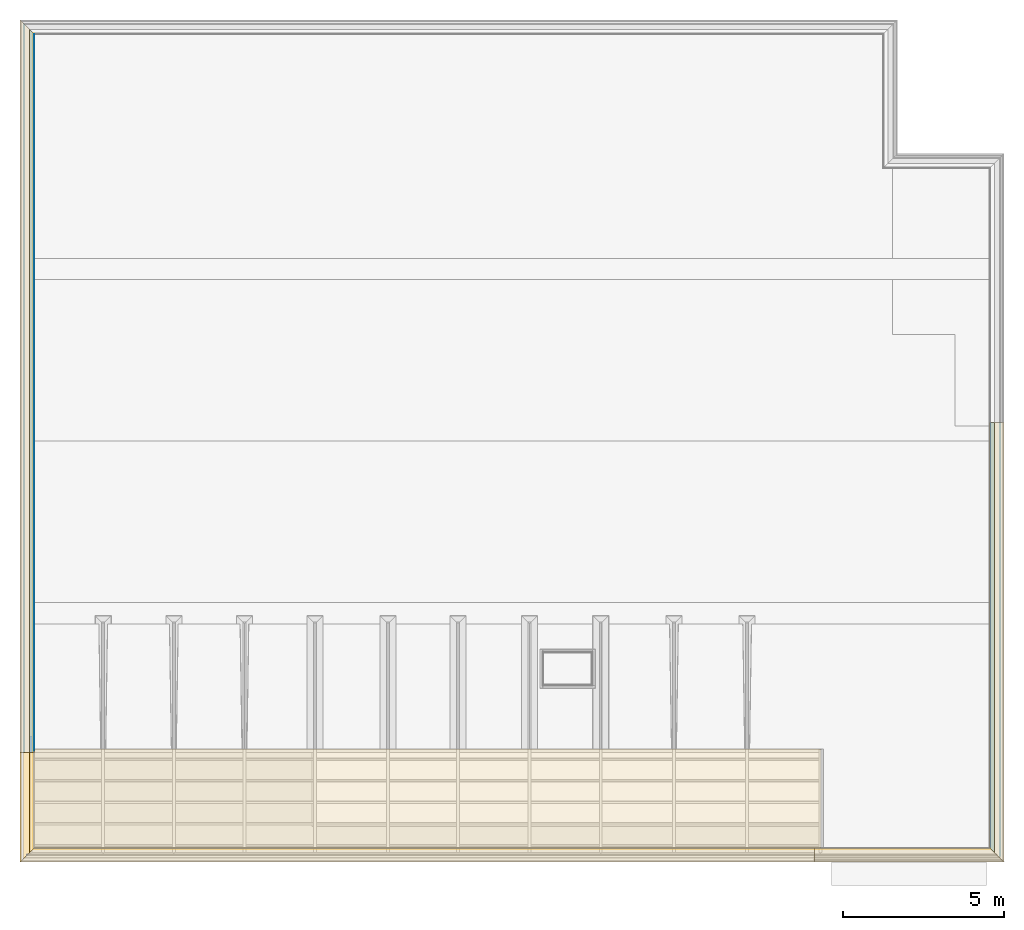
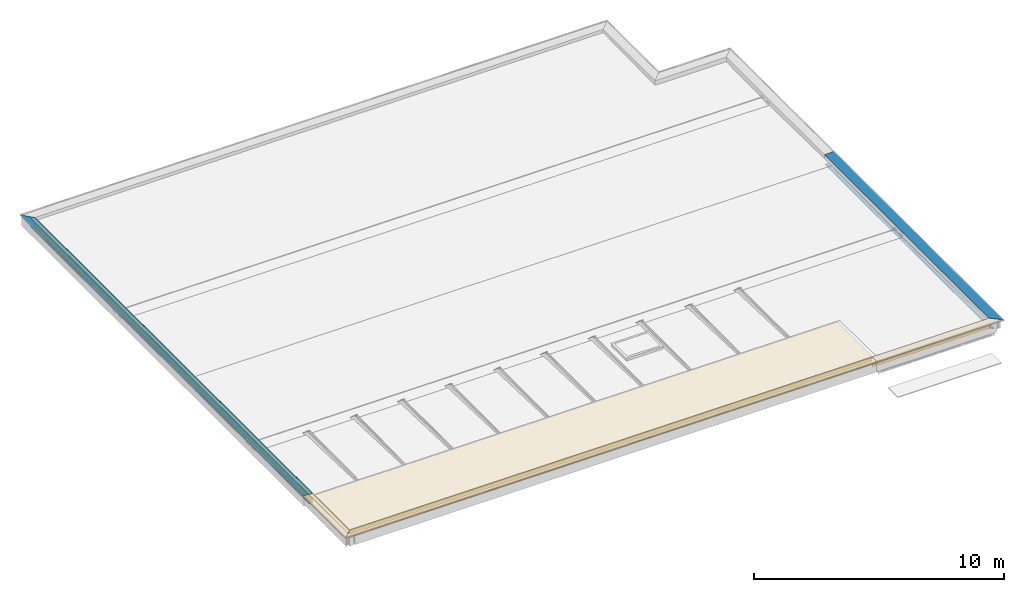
# One storey, part 14 of 16: 13 coverings, 5 building element parts, 6 openings, 6 elements without a shape of their own.
"""IFC2X3 building model written with IfcOpenShell, lengths in millimetres."""

from ifc_helpers import new_model, entity, si_unit, converted_unit, derived_unit, money_unit, direction, frame, origin_with_axes, place, context, subcontext, project, spatial, faceted_brep, material, type_object, element, aggregate, save


model = new_model("IFC2X3")

# Units and contexts
model_context = context("Model", 3, precision=0.01, world=origin_with_axes(), true_north=direction((0.0, 1.0)))
body_context = subcontext(model_context, "Body", "Model", "MODEL_VIEW")
ifc_project = project(units=[si_unit("LENGTHUNIT", "METRE", prefix="MILLI"), si_unit("AREAUNIT", "SQUARE_METRE"), si_unit("VOLUMEUNIT", "CUBIC_METRE"), converted_unit("PLANEANGLEUNIT", "DEGREE", entity("IfcPlaneAngleMeasure", 0.0174532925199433), si_unit("PLANEANGLEUNIT", "RADIAN"), dimensions=[0, 0, 0, 0, 0, 0, 0]), money_unit("EUR"), converted_unit("TIMEUNIT", "Year", entity("IfcTimeMeasure", 31556926.0), si_unit("TIMEUNIT", "SECOND"), dimensions=[0, 0, 1, 0, 0, 0, 0]), si_unit("MASSUNIT", "GRAM", prefix="KILO"), si_unit("THERMODYNAMICTEMPERATUREUNIT", "DEGREE_CELSIUS"), si_unit("LUMINOUSINTENSITYUNIT", "LUMEN"), si_unit("ENERGYUNIT", "JOULE", prefix="MEGA"), derived_unit("THERMALCONDUCTANCEUNIT", [(si_unit("POWERUNIT", "WATT"), 1), (si_unit("LENGTHUNIT", "METRE"), -1), (si_unit("THERMODYNAMICTEMPERATUREUNIT", "KELVIN"), -1)]), derived_unit("SPECIFICHEATCAPACITYUNIT", [(si_unit("ENERGYUNIT", "JOULE"), 1), (si_unit("MASSUNIT", "GRAM", prefix="KILO"), -1), (si_unit("THERMODYNAMICTEMPERATUREUNIT", "KELVIN"), -1)]), derived_unit("MASSDENSITYUNIT", [(si_unit("MASSUNIT", "GRAM", prefix="KILO"), 1), (si_unit("VOLUMEUNIT", "CUBIC_METRE"), -1)])], contexts=[model_context])

# Site, building, storey
site_placement = place(None, origin_with_axes())
site = spatial("IfcSite", under=ifc_project, at=site_placement, Name="Site", CompositionType="ELEMENT")
building_placement = place(site_placement, origin_with_axes())
building = spatial("IfcBuilding", under=site, at=building_placement, Name="Naam gebouw", CompositionType="ELEMENT")
storey_placement = place(building_placement, frame((0.0, 0.0, 7820.0), z_axis=(0.0, 0.0, 1.0), x_axis=(1.0, 0.0, 0.0)))
storey = spatial("IfcBuildingStorey", under=building, at=storey_placement, Name="2e dakoverzicht", CompositionType="ELEMENT", Elevation=7820.0)

# Beam, coverings
beam_type_1 = type_object("IfcBeamType", Name="47 Dakrand metselwerk overstek 443 x 421", PredefinedType="BEAM")
beam_1_placement = place(storey_placement, frame((0.0, 3600.0, 480.0000000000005), z_axis=(0.0, 0.0, 1.0), x_axis=(1.0, 0.0, 0.0)))
beam_1 = element("IfcBeam", 1, at=beam_1_placement, inside=storey, type_object=beam_type_1, Name="28_Balk-x", ObjectType="BEAM")
ifc_material_1 = material(Name="Hout - Multiplex Oregon Pine")
covering_1_placement = place(beam_1_placement, origin_with_axes())
covering_1 = element("IfcCovering", 2, at=covering_1_placement, material=ifc_material_1, Name="Hout - Multiplex Oregon Pine", PredefinedType="NOTDEFINED", context=body_context, shape_type="Brep", body=[
    faceted_brep([(140.0000015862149, 3179.999999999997, -192.0000000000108), (155.0000006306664, 3179.999999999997, -192.0000000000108), (155.0000006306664, 214.1015017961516, -192.0000000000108), (140.0000015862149, 199.6089911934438, -192.0000000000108), (140.0000015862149, 3179.999999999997, -6.999998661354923), (154.3750736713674, 3179.999999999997, -7.000005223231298), (155.0000006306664, 3179.999999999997, -6.999998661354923), (155.0000006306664, 214.1015017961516, -6.999998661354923), (154.3750736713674, 213.4977177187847, -7.000005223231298), (140.0000015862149, 199.6089911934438, -6.999998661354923)], [[[0, 1, 2, 3]], [[0, 4, 5, 6, 1]], [[1, 6, 7, 2]], [[3, 2, 7, 8, 9]], [[4, 0, 3, 9]], [[5, 4, 9, 8]], [[6, 5, 8, 7]]]),
])
ifc_material_2 = material(Name="Hout - Vloer")
covering_2_placement = place(beam_1_placement, origin_with_axes())
covering_2 = element("IfcCovering", 3, at=covering_2_placement, material=ifc_material_2, Name="Hout - Vloer", PredefinedType="NOTDEFINED", context=body_context, shape_type="Brep", body=[
    faceted_brep([(0.0, 3179.999999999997, -45.00000035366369), (140.0000005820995, 3179.999999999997, -45.00000035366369), (140.0000005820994, 199.6089902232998, -45.00000035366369), (0.0, 64.34554875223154, -45.00000035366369), (0.0, 3179.999999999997, -6.998211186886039), (140.0000005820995, 3179.999999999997, -7.000000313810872), (140.0000005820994, 199.6089902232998, -7.000000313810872), (0.0, 64.34554875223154, -6.998211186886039)], [[[0, 1, 2, 3]], [[0, 4, 5, 1]], [[1, 5, 6, 2]], [[3, 2, 6, 7]], [[4, 0, 3, 7]], [[5, 4, 7, 6]]]),
])
ifc_material_3 = material(Name="Hout - Spaanplaat")
covering_3_placement = place(beam_1_placement, origin_with_axes())
covering_3 = element("IfcCovering", 4, at=covering_3_placement, material=ifc_material_3, Name="Hout - Spaanplaat", PredefinedType="NOTDEFINED", context=body_context, shape_type="Brep", body=[
    faceted_brep([(-285.35971970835, -211.3597197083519, 8.274504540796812), (-284.7348560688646, -210.7559968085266, 26.2636563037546), (-284.7348560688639, 3179.999999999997, 26.2636563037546), (-285.3597197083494, 3179.999999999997, 8.274504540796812), (154.3750747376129, 213.4977187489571, -7.000003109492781), (154.999997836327, 214.1014990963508, 10.98914865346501), (154.9999978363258, 3179.999999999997, 10.98914865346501), (154.3750747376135, 3179.999999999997, -7.000003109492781)], [[[0, 1, 2, 3]], [[4, 5, 1, 0]], [[1, 5, 6, 2]], [[7, 3, 2, 6]], [[4, 0, 3, 7]], [[5, 4, 7, 6]]]),
])
aggregate(beam_1, [covering_1, covering_2, covering_3])

beam_type_2 = type_object("IfcBeamType", Name="47 Isoniq M stucwerk 428 x 509", PredefinedType="BEAM")
beam_2_placement = place(storey_placement, frame((29899.99999999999, 3600.000000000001, 480.0000000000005), z_axis=(0.0, 0.0, 1.0), x_axis=(0.0, 1.0, 0.0)))
beam_2 = element("IfcBeam", 5, at=beam_2_placement, inside=storey, type_object=beam_type_2, Name="28_Balk-x", ObjectType="BEAM")
covering_4_placement = place(beam_2_placement, origin_with_axes())
covering_4 = element("IfcCovering", 6, at=covering_4_placement, material=ifc_material_3, Name="Hout - Spaanplaat", PredefinedType="NOTDEFINED", context=body_context, shape_type="Brep", body=[
    faceted_brep([(-211.359719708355, -285.3597197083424, 8.274501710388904), (-210.7348561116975, -284.712975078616, 26.2636527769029), (-210.734856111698, 5576.000960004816, 26.2636527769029), (-211.3597197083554, 5576.000960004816, 8.274501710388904), (213.3751322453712, 154.2481979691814, -6.4789660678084), (214.0000022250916, 154.8949492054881, 11.51018499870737), (214.0000022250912, 5576.000960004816, 11.51018499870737), (213.3751322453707, 5576.000960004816, -6.4789660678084)], [[[0, 1, 2, 3]], [[4, 5, 1, 0]], [[1, 5, 6, 2]], [[7, 3, 2, 6]], [[4, 0, 3, 7]], [[5, 4, 7, 6]]]),
])
ifc_material_4 = material(Name="Hout - Multiplex")
covering_5_placement = place(beam_2_placement, origin_with_axes())
covering_5 = element("IfcCovering", 7, at=covering_5_placement, material=ifc_material_4, Name="Hout - Multiplex", PredefinedType="NOTDEFINED", context=body_context, shape_type="Brep", body=[
    faceted_brep([(198.9999980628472, 5576.000960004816, -479.9999999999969), (213.9999988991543, 5576.000960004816, -479.9999999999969), (213.9999988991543, 154.8949457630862, -479.9999999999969), (198.9999980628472, 139.3696854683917, -479.9999999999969), (198.9999980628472, 5576.000960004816, -10.00000080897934), (213.9999988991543, 5576.000960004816, -10.00000080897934), (213.9999988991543, 154.8949457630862, -10.00000080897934), (198.9999980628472, 139.3696854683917, -10.00000080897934)], [[[0, 1, 2, 3]], [[0, 4, 5, 1]], [[1, 5, 6, 2]], [[3, 2, 6, 7]], [[4, 0, 3, 7]], [[5, 4, 7, 6]]]),
])
aggregate(beam_2, [covering_4, covering_5])

beam_type_3 = type_object("IfcBeamType", Name="47 Dakrand stucwerk overstek 428 x 514", PredefinedType="BEAM")
beam_3_placement = place(storey_placement, frame((24323.99903999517, 3600.000000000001, 480.0000000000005), z_axis=(0.0, 0.0, 1.0), x_axis=(0.0, 1.0, 0.0)))
beam_3 = element("IfcBeam", 8, at=beam_3_placement, inside=storey, type_object=beam_type_3, Name="28_Balk-x", ObjectType="BEAM")
covering_6_placement = place(beam_3_placement, origin_with_axes())
covering_6 = element("IfcCovering", 9, at=covering_6_placement, material=ifc_material_4, Name="Hout - Multiplex", PredefinedType="NOTDEFINED", context=body_context, shape_type="Brep", body=[
    faceted_brep([(199.0000007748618, 24184.62935402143, -191.9999999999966), (214.0000007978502, 24169.10409465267, -191.9999999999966), (214.0000007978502, 0.0, -191.9999999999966), (199.0000007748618, 0.0, -191.9999999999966), (199.0000007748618, 24184.62935402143, -7.000000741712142), (214.0000007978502, 24169.10409465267, -7.000000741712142), (214.0000007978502, 0.0, -7.000000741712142), (199.0000007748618, 0.0, -7.000000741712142)], [[[0, 1, 2, 3]], [[0, 4, 5, 1]], [[1, 5, 6, 2]], [[3, 2, 6, 7]], [[4, 0, 3, 7]], [[5, 4, 7, 6]]]),
])
covering_7_placement = place(beam_3_placement, origin_with_axes())
covering_7 = element("IfcCovering", 10, at=covering_7_placement, material=ifc_material_3, Name="Hout - Spaanplaat", PredefinedType="NOTDEFINED", context=body_context, shape_type="Brep", body=[
    faceted_brep([(-211.359719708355, 0.0, 8.274503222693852), (-210.7348561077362, 0.0, 26.26365440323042), (-210.7348561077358, 24608.7120150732, 26.26365440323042), (-211.3597197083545, 24609.35875970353, 8.274503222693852), (213.3751349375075, 0.0, -6.478964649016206), (214.0000049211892, 0.0, 11.51018014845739), (214.0000049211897, 24169.10409038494, 11.51018014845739), (213.3751349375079, 24169.75084162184, -6.478964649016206)], [[[0, 1, 2, 3]], [[4, 5, 1, 0]], [[1, 5, 6, 2]], [[7, 3, 2, 6]], [[4, 0, 3, 7]], [[5, 4, 7, 6]]]),
])
aggregate(beam_3, [covering_6, covering_7])

# Beam, openings, coverings
beam_type_4 = type_object("IfcBeamType", Name="47 Isoniq M metselwerk 443 x 509", PredefinedType="BEAM")
beam_4_placement = place(storey_placement, frame((29899.99999999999, 16999.99778166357, 480.0000000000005), z_axis=(0.0, 0.0, 1.0), x_axis=(-1.0, 0.0, 0.0)))
beam_4 = element("IfcBeam", 11, at=beam_4_placement, inside=storey, type_object=beam_type_4, Name="28_Balk-x", ObjectType="BEAM")
opening_1_placement = place(beam_4_placement, frame((29899.99999999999, 16999.99778166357, -8300.0), z_axis=(0.0, 0.0, 1.0), x_axis=(-1.0, 0.0, 0.0)))
element("IfcOpeningElement", 12, at=opening_1_placement, cuts=beam_4, Name="_Opening-x", context=body_context, shape_type="Brep", body=[
    faceted_brep([(29709.99999999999, 10985.00000127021, 8102.999999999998), (29709.99999999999, 10985.00000127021, 8172.999999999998), (30628.71943941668, 10985.00000127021, 8172.999999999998), (30628.71943941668, 10985.00000127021, 8102.999999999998), (29709.99999999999, 10755.00000127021, 8102.999999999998), (29709.99999999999, 10755.00000127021, 8172.999999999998), (30628.71943941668, 10755.00000127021, 8172.999999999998), (30628.71943941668, 10755.00000127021, 8102.999999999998)], [[[0, 1, 2, 3]], [[0, 4, 5, 1]], [[1, 5, 6, 2]], [[3, 2, 6, 7]], [[4, 0, 3, 7]], [[5, 4, 7, 6]]]),
])
opening_2_placement = place(beam_4_placement, frame((29899.99999999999, 16999.99778166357, -8300.0), z_axis=(0.0, 0.0, 1.0), x_axis=(-1.0, 0.0, 0.0)))
element("IfcOpeningElement", 13, at=opening_2_placement, cuts=beam_4, Name="_Opening-x", context=body_context, shape_type="Brep", body=[
    faceted_brep([(29709.99999999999, 11425.00000127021, 8102.999999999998), (29709.99999999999, 11425.00000127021, 8172.999999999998), (30628.71943941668, 11425.00000127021, 8172.999999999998), (30628.71943941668, 11425.00000127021, 8102.999999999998), (29709.99999999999, 11195.00000127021, 8102.999999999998), (29709.99999999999, 11195.00000127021, 8172.999999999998), (30628.71943941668, 11195.00000127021, 8172.999999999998), (30628.71943941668, 11195.00000127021, 8102.999999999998)], [[[0, 1, 2, 3]], [[0, 4, 5, 1]], [[1, 5, 6, 2]], [[3, 2, 6, 7]], [[4, 0, 3, 7]], [[5, 4, 7, 6]]]),
])
covering_8_placement = place(beam_4_placement, origin_with_axes())
covering_8 = element("IfcCovering", 14, at=covering_8_placement, material=ifc_material_2, Name="Hout - Vloer", PredefinedType="NOTDEFINED", context=body_context, shape_type="Brep", body=[
    faceted_brep([(3.192859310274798e-07, 13335.65223409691, -9.998211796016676), (3.192859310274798e-07, 13335.65223409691, -48.00000479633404), (3.192894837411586e-07, 0.0, -48.00000479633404), (3.192894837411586e-07, 0.0, -9.998211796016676), (139.9485014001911, 13200.43855049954, -9.999995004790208), (140.0000030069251, 13200.38879132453, -47.99999774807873), (140.0000030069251, 0.0, -47.99999774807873), (139.9485014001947, 0.0, -9.999995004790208)], [[[0, 1, 2, 3]], [[0, 4, 5, 1]], [[1, 5, 6, 2]], [[3, 2, 6, 7]], [[4, 0, 3, 7]], [[5, 4, 7, 6]]]),
])
covering_9_placement = place(beam_4_placement, origin_with_axes())
covering_9 = element("IfcCovering", 15, at=covering_9_placement, material=ifc_material_3, Name="Hout - Spaanplaat", PredefinedType="NOTDEFINED", context=body_context, shape_type="Brep", body=[
    faceted_brep([(-285.3597197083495, 0.0, 8.27450903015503), (-284.7348565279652, 0.0, 26.26365084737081), (-284.7348565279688, 13610.75377891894, 26.26365084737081), (-285.3597197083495, 13611.35750137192, 8.27450903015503), (154.3750810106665, 0.0, -7.000004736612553), (155.0000045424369, 0.0, 10.98915216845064), (155.0000045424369, 13185.89627839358, 10.98915216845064), (154.3750810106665, 13186.50005915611, -7.000004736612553)], [[[0, 1, 2, 3]], [[4, 5, 1, 0]], [[1, 5, 6, 2]], [[7, 3, 2, 6]], [[4, 0, 3, 7]], [[5, 4, 7, 6]]]),
])

# Slab, covering
slab_type = type_object("IfcSlabType", Name="27 HSB dak voorgevel 189", PredefinedType="NOTDEFINED")
slab_placement = place(storey_placement, frame((14.99999999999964, 3614.999999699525, 287.9999999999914), z_axis=(0.0, 0.0, 1.0), x_axis=(1.0, 0.0, 0.0)))
slab = element("IfcSlab", 16, at=slab_placement, inside=storey, type_object=slab_type, Name="_Vloer-x", PredefinedType="NOTDEFINED")
covering_10_placement = place(slab_placement, origin_with_axes())
covering_10 = element("IfcCovering", 17, at=covering_10_placement, material=ifc_material_4, Name="Hout - Multiplex", PredefinedType="NOTDEFINED", context=body_context, shape_type="Brep", body=[
    faceted_brep([(0.0, 0.0, -18.00000000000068), (24484.99902028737, 0.0, -18.00000000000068), (24484.99902028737, 0.0, 0.0), (0.0, 0.0, 0.0), (0.0, 3265.000000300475, -18.00000000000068), (24484.99902028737, 3265.000000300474, -18.00000000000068), (24484.99902028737, 3265.000000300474, 0.0), (0.0, 3265.000000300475, 0.0)], [[[0, 1, 2, 3]], [[1, 0, 4, 5]], [[1, 5, 6, 2]], [[7, 3, 2, 6]], [[4, 0, 3, 7]], [[5, 4, 7, 6]]]),
])
aggregate(slab, [covering_10])

# Beam, openings, coverings
beam_5_placement = place(storey_placement, frame((0.0, 6779.999999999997, 480.0000000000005), z_axis=(0.0, 0.0, 1.0), x_axis=(1.0, 0.0, 0.0)))
beam_5 = element("IfcBeam", 18, at=beam_5_placement, inside=storey, type_object=beam_type_4, Name="28_Balk-x", ObjectType="BEAM")
opening_3_placement = place(beam_5_placement, frame((0.0, -6779.999999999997, -8300.0), z_axis=(0.0, 0.0, 1.0), x_axis=(1.0, 0.0, 0.0)))
element("IfcOpeningElement", 19, at=opening_3_placement, cuts=beam_5, Name="_Opening-x", context=body_context, shape_type="Brep", body=[
    faceted_brep([(190.000000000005, 21855.0000040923, 8102.999999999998), (190.000000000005, 21855.0000040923, 8172.999999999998), (-728.7194394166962, 21855.0000040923, 8172.999999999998), (-728.7194394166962, 21855.0000040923, 8102.999999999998), (190.000000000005, 22085.0000040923, 8102.999999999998), (190.000000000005, 22085.0000040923, 8172.999999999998), (-728.7194394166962, 22085.0000040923, 8172.999999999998), (-728.7194394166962, 22085.0000040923, 8102.999999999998)], [[[0, 1, 2, 3]], [[0, 4, 5, 1]], [[1, 5, 6, 2]], [[3, 2, 6, 7]], [[4, 0, 3, 7]], [[5, 4, 7, 6]]]),
])
opening_4_placement = place(beam_5_placement, frame((0.0, -6779.999999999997, -8300.0), z_axis=(0.0, 0.0, 1.0), x_axis=(1.0, 0.0, 0.0)))
element("IfcOpeningElement", 20, at=opening_4_placement, cuts=beam_5, Name="_Opening-x", context=body_context, shape_type="Brep", body=[
    faceted_brep([(190.000000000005, 11195.0000040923, 8102.999999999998), (190.000000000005, 11195.0000040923, 8172.999999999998), (-728.7194394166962, 11195.0000040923, 8172.999999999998), (-728.7194394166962, 11195.0000040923, 8102.999999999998), (190.000000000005, 11425.0000040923, 8102.999999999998), (190.000000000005, 11425.0000040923, 8172.999999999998), (-728.7194394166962, 11425.0000040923, 8172.999999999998), (-728.7194394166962, 11425.0000040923, 8102.999999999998)], [[[0, 1, 2, 3]], [[0, 4, 5, 1]], [[1, 5, 6, 2]], [[3, 2, 6, 7]], [[4, 0, 3, 7]], [[5, 4, 7, 6]]]),
])
opening_5_placement = place(beam_5_placement, frame((0.0, -6779.999999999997, -8300.0), z_axis=(0.0, 0.0, 1.0), x_axis=(1.0, 0.0, 0.0)))
element("IfcOpeningElement", 21, at=opening_5_placement, cuts=beam_5, Name="_Opening-x", context=body_context, shape_type="Brep", body=[
    faceted_brep([(190.000000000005, 10755.0000040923, 8102.999999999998), (190.000000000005, 10755.0000040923, 8172.999999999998), (-728.7194394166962, 10755.0000040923, 8172.999999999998), (-728.7194394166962, 10755.0000040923, 8102.999999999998), (190.000000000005, 10985.0000040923, 8102.999999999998), (190.000000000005, 10985.0000040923, 8172.999999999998), (-728.7194394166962, 10985.0000040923, 8172.999999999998), (-728.7194394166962, 10985.0000040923, 8102.999999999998)], [[[0, 1, 2, 3]], [[0, 4, 5, 1]], [[1, 5, 6, 2]], [[3, 2, 6, 7]], [[4, 0, 3, 7]], [[5, 4, 7, 6]]]),
])
opening_6_placement = place(beam_5_placement, frame((0.0, -6779.999999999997, -8300.0), z_axis=(0.0, 0.0, 1.0), x_axis=(1.0, 0.0, 0.0)))
element("IfcOpeningElement", 22, at=opening_6_placement, cuts=beam_5, Name="_Opening-x", context=body_context, shape_type="Brep", body=[
    faceted_brep([(190.000000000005, 21415.00000409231, 8102.999999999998), (190.000000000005, 21415.00000409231, 8172.999999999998), (-728.7194394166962, 21415.00000409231, 8172.999999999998), (-728.7194394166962, 21415.00000409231, 8102.999999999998), (190.000000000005, 21645.0000040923, 8102.999999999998), (190.000000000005, 21645.0000040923, 8172.999999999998), (-728.7194394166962, 21645.0000040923, 8172.999999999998), (-728.7194394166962, 21645.0000040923, 8102.999999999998)], [[[0, 1, 2, 3]], [[0, 4, 5, 1]], [[1, 5, 6, 2]], [[3, 2, 6, 7]], [[4, 0, 3, 7]], [[5, 4, 7, 6]]]),
])
covering_11_placement = place(beam_5_placement, origin_with_axes())
covering_11 = element("IfcCovering", 23, at=covering_11_placement, material=ifc_material_2, Name="Hout - Vloer", PredefinedType="NOTDEFINED", context=body_context, shape_type="Brep", body=[
    faceted_brep([(3.192879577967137e-07, 22394.99999968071, -9.998211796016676), (3.192879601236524e-07, 22394.99999968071, -48.00000479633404), (3.192879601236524e-07, 0.0, -48.00000479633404), (3.192879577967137e-07, 0.0, -9.998211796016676), (139.9485014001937, 22255.05149859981, -9.999995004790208), (140.0000030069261, 22254.99999699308, -47.99999774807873), (140.0000030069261, 0.0, -47.99999774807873), (139.9485014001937, 0.0, -9.999995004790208)], [[[0, 1, 2, 3]], [[0, 4, 5, 1]], [[1, 5, 6, 2]], [[3, 2, 6, 7]], [[4, 0, 3, 7]], [[5, 4, 7, 6]]]),
])
covering_12_placement = place(beam_5_placement, origin_with_axes())
covering_12 = element("IfcCovering", 24, at=covering_12_placement, material=ifc_material_3, Name="Hout - Spaanplaat", PredefinedType="NOTDEFINED", context=body_context, shape_type="Brep", body=[
    faceted_brep([(-285.3597197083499, 0.0, 8.27450903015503), (-284.7348565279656, 0.0, 26.26365084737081), (-284.7348565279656, 22679.73485652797, 26.26365084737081), (-285.3597197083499, 22680.35971970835, 8.27450903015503), (154.3750810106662, 0.0, -7.000004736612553), (155.0000045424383, 0.0, 10.98915216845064), (155.0000045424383, 22239.99999545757, 10.98915216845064), (154.3750810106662, 22240.62491898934, -7.000004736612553)], [[[0, 1, 2, 3]], [[4, 5, 1, 0]], [[1, 5, 6, 2]], [[7, 3, 2, 6]], [[4, 0, 3, 7]], [[5, 4, 7, 6]]]),
])
covering_13_placement = place(beam_5_placement, origin_with_axes())
covering_13 = element("IfcCovering", 25, at=covering_13_placement, material=ifc_material_4, Name="Hout - Multiplex", PredefinedType="NOTDEFINED", context=body_context, shape_type="Brep", body=[
    faceted_brep([(140.0000019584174, 0.0, -47.99999765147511), (140.0000019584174, 22254.99999804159, -47.99999765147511), (140.0000019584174, 22254.99999804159, -479.9999999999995), (140.0000019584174, 0.0, -479.9999999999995), (140.0000019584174, 15075.00000409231, -197.0000000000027), (140.0000019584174, 15305.0000040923, -197.0000000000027), (140.0000019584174, 15305.0000040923, -127.0000000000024), (140.0000019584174, 15075.00000409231, -127.0000000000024), (140.0000019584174, 14635.00000409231, -197.0000000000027), (140.0000019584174, 14865.00000409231, -197.0000000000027), (140.0000019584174, 14865.00000409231, -127.0000000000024), (140.0000019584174, 14635.00000409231, -127.0000000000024), (140.0000019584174, 4415.000004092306, -197.0000000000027), (140.0000019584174, 4645.000004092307, -197.0000000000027), (140.0000019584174, 4645.000004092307, -127.0000000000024), (140.0000019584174, 4415.000004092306, -127.0000000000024), (140.0000019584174, 3975.000004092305, -197.0000000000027), (140.0000019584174, 4205.000004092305, -197.0000000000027), (140.0000019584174, 4205.000004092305, -127.0000000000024), (140.0000019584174, 3975.000004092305, -127.0000000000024), (140.0000019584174, 0.0, -6.99999645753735), (140.0000019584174, 22254.99999804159, -6.99999645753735), (154.3750810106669, 22240.62491898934, -7.000004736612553), (155.0000031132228, 22239.99999688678, -6.99999645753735), (155.0000031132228, 22239.99999688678, -479.9999999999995), (155.0000031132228, 0.0, -479.9999999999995), (155.0000031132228, 0.0, -6.99999645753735), (154.3750810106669, 0.0, -7.000004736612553), (155.0000031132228, 15075.00000409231, -197.0000000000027), (155.0000031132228, 15305.0000040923, -197.0000000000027), (155.0000031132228, 15305.0000040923, -127.0000000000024), (155.0000031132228, 15075.00000409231, -127.0000000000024), (155.0000031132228, 14635.00000409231, -197.0000000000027), (155.0000031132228, 14865.00000409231, -197.0000000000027), (155.0000031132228, 14865.00000409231, -127.0000000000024), (155.0000031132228, 14635.00000409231, -127.0000000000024), (155.0000031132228, 4415.000004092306, -197.0000000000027), (155.0000031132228, 4645.000004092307, -197.0000000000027), (155.0000031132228, 4645.000004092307, -127.0000000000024), (155.0000031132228, 4415.000004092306, -127.0000000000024), (155.0000031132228, 3975.000004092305, -197.0000000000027), (155.0000031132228, 4205.000004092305, -197.0000000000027), (155.0000031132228, 4205.000004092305, -127.0000000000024), (155.0000031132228, 3975.000004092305, -127.0000000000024)], [[[0, 1, 2, 3], [4, 5, 6, 7], [8, 9, 10, 11], [12, 13, 14, 15], [16, 17, 18, 19]], [[20, 21, 1, 0]], [[2, 1, 21, 22, 23, 24]], [[3, 2, 24, 25]], [[20, 0, 3, 25, 26, 27]], [[28, 29, 5, 4]], [[29, 30, 6, 5]], [[30, 31, 7, 6]], [[31, 28, 4, 7]], [[32, 33, 9, 8]], [[33, 34, 10, 9]], [[34, 35, 11, 10]], [[35, 32, 8, 11]], [[36, 37, 13, 12]], [[37, 38, 14, 13]], [[38, 39, 15, 14]], [[39, 36, 12, 15]], [[40, 41, 17, 16]], [[41, 42, 18, 17]], [[42, 43, 19, 18]], [[43, 40, 16, 19]], [[27, 22, 21, 20]], [[26, 23, 22, 27]], [[25, 24, 23, 26], [28, 31, 30, 29], [32, 35, 34, 33], [36, 39, 38, 37], [40, 43, 42, 41]]]),
])

# Building element part
ifc_material_5 = material(Name="47 waterdichte laag - bitumen")
building_element_part_1_placement = place(beam_4_placement, origin_with_axes())
building_element_part_1 = element("IfcBuildingElementPart", 26, at=building_element_part_1_placement, material=ifc_material_5, Name="47 waterdichte laag - bitumen", context=body_context, shape_type="Brep", body=[
    faceted_brep([(-262.1351685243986, 0.0, 28.48044654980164), (-284.6578505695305, 0.0, 28.48044654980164), (-284.7348536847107, 0.0, 26.26365007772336), (155.0000023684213, 0.0, 10.98914888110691), (158.0000036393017, 0.0, 13.88674958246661), (-284.6578505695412, 13610.6556322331, 28.48044654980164), (-262.135302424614, 13588.13308408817, 28.48044654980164), (-262.1351685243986, 13588.91869644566, 28.48044654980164), (-284.657850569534, 13610.67937826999, 28.48044654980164), (-284.7348536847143, 13610.75377617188, 26.26365007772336), (155.0000023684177, 13185.89628049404, 10.98914888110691), (158.0000036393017, 13182.99777697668, 13.88674958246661)], [[[0, 1, 2, 3, 4]], [[5, 1, 0, 6, 7, 8]], [[1, 5, 8, 9, 2]], [[3, 2, 9, 10]], [[4, 3, 10, 11]], [[6, 0, 4, 11, 7]], [[9, 8, 7, 11, 10]]]),
])

ifc_material_6 = material(Name="Hout C")
building_element_part_2_placement = place(beam_4_placement, origin_with_axes())
building_element_part_2 = element("IfcBuildingElementPart", 27, at=building_element_part_2_placement, material=ifc_material_6, Name="Hout C", context=body_context, shape_type="Brep", body=[
    faceted_brep([(0.0, 13335.65223440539, -441.9999999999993), (0.0, 13335.65223440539, -479.9999999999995), (0.0, 0.0, -479.9999999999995), (0.0, 0.0, -441.9999999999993), (139.999999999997, 13200.38879422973, -441.9999999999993), (139.999999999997, 13200.38879422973, -479.9999999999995), (140.0000000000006, 0.0, -479.9999999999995), (140.0000000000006, 0.0, -441.9999999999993)], [[[0, 1, 2, 3]], [[0, 4, 5, 1]], [[1, 5, 6, 2]], [[3, 2, 6, 7]], [[4, 0, 3, 7]], [[5, 4, 7, 6]]]),
])

aggregate(beam_4, [covering_8, covering_9, building_element_part_1, building_element_part_2])

building_element_part_3_placement = place(beam_5_placement, origin_with_axes())
building_element_part_3 = element("IfcBuildingElementPart", 28, at=building_element_part_3_placement, material=ifc_material_5, Name="47 waterdichte laag - bitumen", context=body_context, shape_type="Brep", body=[
    faceted_brep([(-284.6578505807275, 22679.65785055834, 28.48044654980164), (-262.1351685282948, 22657.13516852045, 28.48044654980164), (158.0000036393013, 22236.9999963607, 13.88674958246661), (155.0000023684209, 22239.99999763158, 10.98914888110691), (-284.7348536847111, 22679.73485368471, 26.26365007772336), (-262.135168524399, 0.0, 28.48044654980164), (-284.6578505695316, 0.0, 28.48044654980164), (158.0000036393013, 0.0, 13.88674958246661), (155.0000023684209, 0.0, 10.98914888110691), (-284.7348536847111, 0.0, 26.26365007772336)], [[[0, 1, 2, 3, 4]], [[5, 1, 0, 6]], [[1, 5, 7, 2]], [[7, 8, 3, 2]], [[8, 9, 4, 3]], [[6, 0, 4, 9]], [[5, 6, 9, 8, 7]]]),
])

building_element_part_4_placement = place(beam_5_placement, origin_with_axes())
building_element_part_4 = element("IfcBuildingElementPart", 29, at=building_element_part_4_placement, material=ifc_material_5, Name="47 waterdichte laag - bitumen", context=body_context, shape_type="Brep", body=[
    faceted_brep([(155.0000031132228, 0.0, -6.99999645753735), (155.0000031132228, 22239.99999688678, -6.99999645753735), (155.0, 22240.00000000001, -479.9999999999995), (155.0, 0.0, -479.9999999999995), (155.0000359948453, 15075.00000409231, -197.0000000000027), (155.0000359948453, 15305.0000040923, -197.0000000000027), (155.0000238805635, 15305.0000040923, -127.0000000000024), (155.0000238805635, 15075.00000409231, -127.0000000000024), (155.0000359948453, 14635.00000409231, -197.0000000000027), (155.0000359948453, 14865.00000409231, -197.0000000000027), (155.0000238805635, 14865.00000409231, -127.0000000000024), (155.0000238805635, 14635.00000409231, -127.0000000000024), (155.0000359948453, 4415.000004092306, -197.0000000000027), (155.0000359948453, 4645.000004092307, -197.0000000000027), (155.0000238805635, 4645.000004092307, -127.0000000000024), (155.0000238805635, 4415.000004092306, -127.0000000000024), (155.0000359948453, 3975.000004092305, -197.0000000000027), (155.0000359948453, 4205.000004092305, -197.0000000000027), (155.0000238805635, 4205.000004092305, -127.0000000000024), (155.0000238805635, 3975.000004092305, -127.0000000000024), (155.0, 0.0, 10.989150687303), (155.0, 22240.00000000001, 10.989150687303), (158.0, 22237.0, 13.88675286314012), (158.0, 22237.0, -479.9999999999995), (158.0, 0.0, -479.9999999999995), (158.0, 0.0, 13.88675286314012), (157.9999510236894, 15075.00000409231, -197.0000000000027), (157.9999510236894, 15305.0000040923, -197.0000000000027), (157.9999389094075, 15305.0000040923, -127.0000000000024), (157.9999389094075, 15075.00000409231, -127.0000000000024), (157.9999510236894, 14635.00000409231, -197.0000000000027), (157.9999510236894, 14865.00000409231, -197.0000000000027), (157.9999389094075, 14865.00000409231, -127.0000000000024), (157.9999389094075, 14635.00000409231, -127.0000000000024), (157.9999510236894, 4415.000004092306, -197.0000000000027), (157.9999510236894, 4645.000004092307, -197.0000000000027), (157.9999389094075, 4645.000004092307, -127.0000000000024), (157.9999389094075, 4415.000004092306, -127.0000000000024), (157.9999510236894, 3975.000004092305, -197.0000000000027), (157.9999510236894, 4205.000004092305, -197.0000000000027), (157.9999389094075, 4205.000004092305, -127.0000000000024), (157.9999389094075, 3975.000004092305, -127.0000000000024)], [[[0, 1, 2, 3], [4, 5, 6, 7], [8, 9, 10, 11], [12, 13, 14, 15], [16, 17, 18, 19]], [[20, 21, 1, 0]], [[1, 21, 22, 23, 2]], [[3, 2, 23, 24]], [[25, 20, 0, 3, 24]], [[26, 27, 5, 4]], [[27, 28, 6, 5]], [[28, 29, 7, 6]], [[29, 26, 4, 7]], [[30, 31, 9, 8]], [[31, 32, 10, 9]], [[32, 33, 11, 10]], [[33, 30, 8, 11]], [[34, 35, 13, 12]], [[35, 36, 14, 13]], [[36, 37, 15, 14]], [[37, 34, 12, 15]], [[38, 39, 17, 16]], [[39, 40, 18, 17]], [[40, 41, 19, 18]], [[41, 38, 16, 19]], [[25, 22, 21, 20]], [[24, 23, 22, 25], [26, 29, 28, 27], [30, 33, 32, 31], [34, 37, 36, 35], [38, 41, 40, 39]]]),
])

building_element_part_5_placement = place(beam_5_placement, origin_with_axes())
building_element_part_5 = element("IfcBuildingElementPart", 30, at=building_element_part_5_placement, material=ifc_material_6, Name="Hout C", context=body_context, shape_type="Brep", body=[
    faceted_brep([(0.0, 22395.0, -441.9999999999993), (0.0, 22395.0, -479.9999999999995), (0.0, 0.0, -479.9999999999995), (0.0, 0.0, -441.9999999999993), (140.0, 22255.0, -441.9999999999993), (140.0, 22255.0, -479.9999999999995), (140.0, 0.0, -479.9999999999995), (140.0, 0.0, -441.9999999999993)], [[[0, 1, 2, 3]], [[0, 4, 5, 1]], [[1, 5, 6, 2]], [[3, 2, 6, 7]], [[4, 0, 3, 7]], [[5, 4, 7, 6]]]),
])

aggregate(beam_5, [covering_11, covering_12, covering_13, building_element_part_3, building_element_part_4, building_element_part_5])

save(model, "model.ifc")
